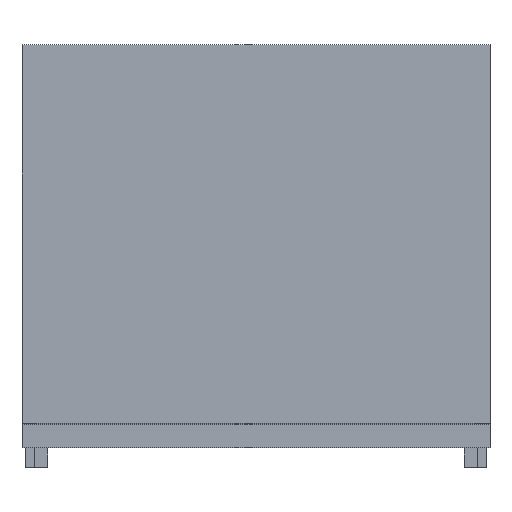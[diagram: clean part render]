
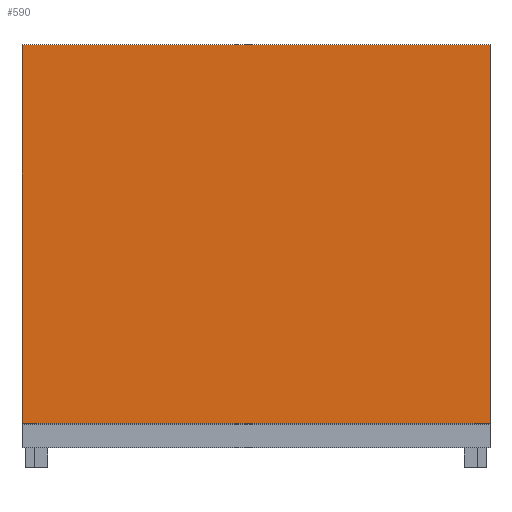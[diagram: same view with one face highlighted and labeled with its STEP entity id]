
A CAD part, top view. The second image highlights one B-rep face of the part: STEP entity #590.
In plain terms, the highlighted planar face has unit normal (0, 0, 1).
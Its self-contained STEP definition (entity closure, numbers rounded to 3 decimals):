
#590=ADVANCED_FACE('',(#4774),#4776,.T.);
#4774=FACE_BOUND('',#4775,.T.);
#4775=EDGE_LOOP('',(#8457,#8458,#8459,#8460));
#4776=PLANE('',#4777);
#4777=AXIS2_PLACEMENT_3D('',#4778,#4779,#4780);
#4778=CARTESIAN_POINT('',(0.,50.25,141.3));
#4779=DIRECTION('',(0.,0.,1.));
#4780=DIRECTION('',(1.,0.,0.));
#8457=ORIENTED_EDGE('',*,*,#10239,.T.);
#8458=ORIENTED_EDGE('',*,*,#10262,.F.);
#8459=ORIENTED_EDGE('',*,*,#10260,.F.);
#8460=ORIENTED_EDGE('',*,*,#10258,.F.);
#10239=EDGE_CURVE('',#12943,#12941,#12944,.T.);
#10258=EDGE_CURVE('',#12943,#12971,#12972,.F.);
#10260=EDGE_CURVE('',#12971,#12974,#12975,.F.);
#10262=EDGE_CURVE('',#12974,#12941,#12977,.F.);
#12941=VERTEX_POINT('',#19407);
#12943=VERTEX_POINT('',#19411);
#12944=LINE('',#19412,#19413);
#12971=VERTEX_POINT('',#19477);
#12972=LINE('',#19478,#19479);
#12974=VERTEX_POINT('',#19484);
#12975=LINE('',#19485,#19486);
#12977=LINE('',#19491,#19492);
#19407=CARTESIAN_POINT('',(447.8,-311.5,141.3));
#19411=CARTESIAN_POINT('',(-447.8,-311.5,141.3));
#19412=CARTESIAN_POINT('',(-447.8,-311.5,141.3));
#19413=VECTOR('',#19414,1.);
#19414=DIRECTION('',(1.,0.,0.));
#19477=CARTESIAN_POINT('',(-447.8,413.3,141.3));
#19478=CARTESIAN_POINT('',(-447.8,413.3,141.3));
#19479=VECTOR('',#19480,1.);
#19480=DIRECTION('',(0.,-1.,0.));
#19484=CARTESIAN_POINT('',(447.8,413.3,141.3));
#19485=CARTESIAN_POINT('',(447.8,413.3,141.3));
#19486=VECTOR('',#19487,1.);
#19487=DIRECTION('',(-1.,0.,0.));
#19491=CARTESIAN_POINT('',(447.8,-311.5,141.3));
#19492=VECTOR('',#19493,1.);
#19493=DIRECTION('',(0.,1.,0.));
